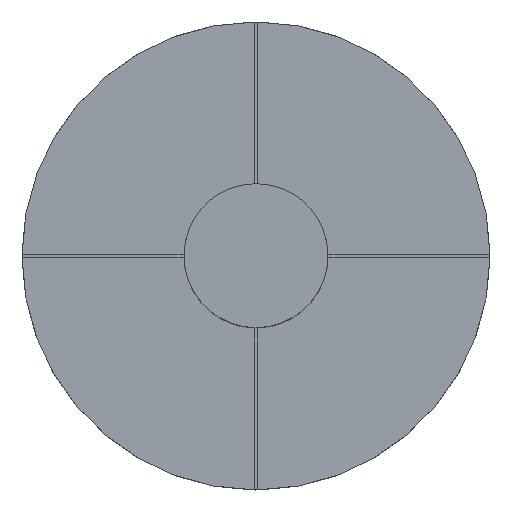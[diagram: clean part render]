
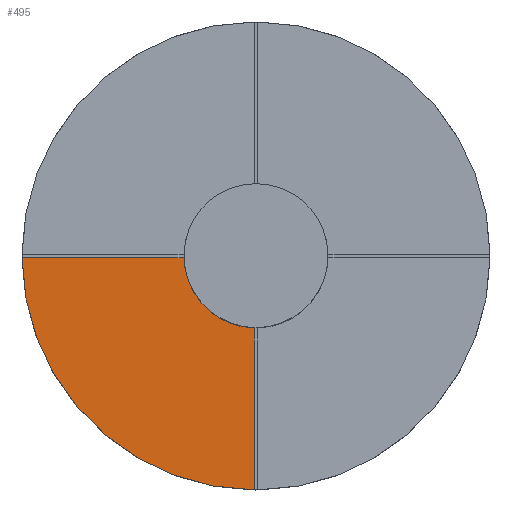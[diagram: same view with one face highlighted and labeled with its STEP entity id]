
A CAD part, top view. The second image highlights one B-rep face of the part: STEP entity #495.
In plain terms, the highlighted planar face has unit normal (0, 0, 1).
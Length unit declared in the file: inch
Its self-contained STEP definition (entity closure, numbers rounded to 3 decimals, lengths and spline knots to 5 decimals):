
#80=CARTESIAN_POINT('',(0.,0.,0.01));
#81=DIRECTION('',(0.,0.,1.));
#82=DIRECTION('',(-1.,-0.025,0.));
#83=AXIS2_PLACEMENT_3D('',#80,#81,#82);
#85=DIRECTION('',(0.,-1.,0.));
#86=VECTOR('',#85,0.045);
#87=CARTESIAN_POINT('',(-0.0005,-0.01999,0.01));
#88=LINE('',#87,#86);
#89=CARTESIAN_POINT('',(0.,0.,0.01));
#90=DIRECTION('',(0.,0.,1.));
#91=DIRECTION('',(-1.,-0.008,0.));
#92=AXIS2_PLACEMENT_3D('',#89,#90,#91);
#94=DIRECTION('',(1.,0.,0.));
#95=VECTOR('',#94,0.045);
#96=CARTESIAN_POINT('',(-0.065,-0.0005,0.01));
#97=LINE('',#96,#95);
#213=CARTESIAN_POINT('',(-0.065,-0.0005,0.01));
#215=CARTESIAN_POINT('',(-0.0005,-0.065,0.01));
#307=VERTEX_POINT('',#213);
#308=VERTEX_POINT('',#215);
#327=CARTESIAN_POINT('',(-0.01999,-0.0005,0.01));
#328=CARTESIAN_POINT('',(-0.0005,-0.01999,0.01));
#329=VERTEX_POINT('',#327);
#330=VERTEX_POINT('',#328);
#480=CARTESIAN_POINT('',(0.,0.,0.01));
#481=DIRECTION('',(0.,0.,1.));
#482=DIRECTION('',(1.,0.,0.));
#483=AXIS2_PLACEMENT_3D('',#480,#481,#482);
#484=PLANE('',#483);
#486=ORIENTED_EDGE('',*,*,#485,.T.);
#488=ORIENTED_EDGE('',*,*,#487,.T.);
#490=ORIENTED_EDGE('',*,*,#489,.F.);
#492=ORIENTED_EDGE('',*,*,#491,.T.);
#493=EDGE_LOOP('',(#486,#488,#490,#492));
#494=FACE_OUTER_BOUND('',#493,.F.);
#495=ADVANCED_FACE('',(#494),#484,.T.);
#84=CIRCLE('',#83,0.02);
#93=CIRCLE('',#92,0.065);
#485=EDGE_CURVE('',#329,#330,#84,.T.);
#487=EDGE_CURVE('',#330,#308,#88,.T.);
#489=EDGE_CURVE('',#307,#308,#93,.T.);
#491=EDGE_CURVE('',#307,#329,#97,.T.);
